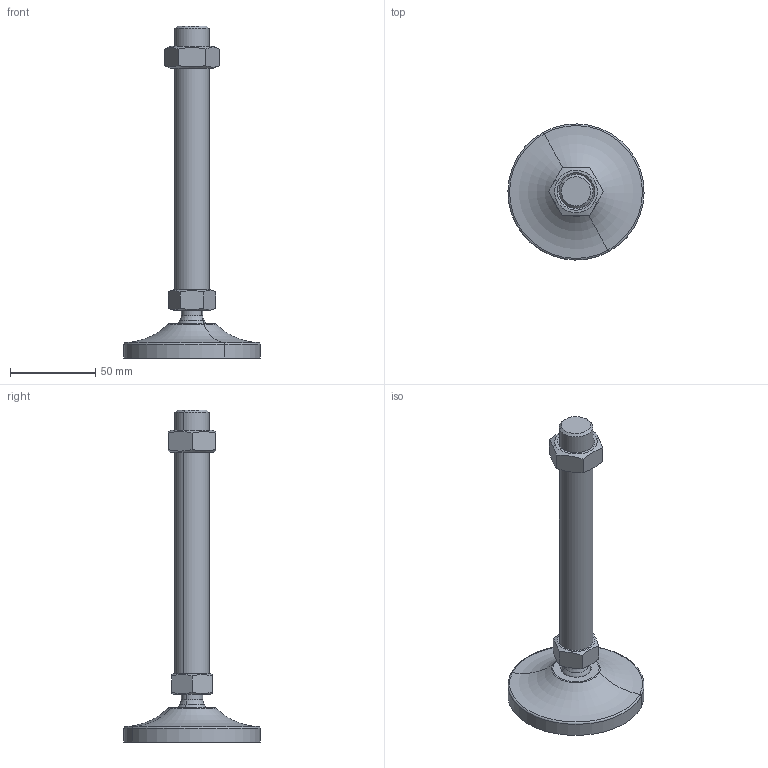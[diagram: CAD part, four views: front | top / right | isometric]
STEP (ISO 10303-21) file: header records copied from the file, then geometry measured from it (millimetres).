
FILE_DESCRIPTION(('CATIA V5 STEP Exchange'),'2;1');
FILE_NAME('C:\Users\ALI OZGUN\Desktop\alhan\saplama2\560802621.stp','2017-09-21T10:34:34+00:00',('none'),('none'),'CATIA Version 5 Release 21 GA (IN-10)','CATIA V5 STEP AP203','none');
FILE_SCHEMA(('CONFIG_CONTROL_DESIGN'));
Length unit declared in the file: millimetre
Products named in the file (1): 560802621
Bounding box: 79.98 x 79.98 x 195 mm (x, y, z)
Volume: 103570.7 mm3; surface area: 29096.6 mm2
Topology: 3 solids, 3 shells, 60 faces, 136 edges, 83 vertices
Faces by surface type: plane 20, cone 16, cylinder 14, torus 6, revolution 2, sphere 2
Entity records: 1873 total; most frequent: CARTESIAN_POINT 631, ORIENTED_EDGE 268, DIRECTION 186, EDGE_CURVE 134, AXIS2_PLACEMENT_3D 100, VERTEX_POINT 83, EDGE_LOOP 67, ADVANCED_FACE 60
